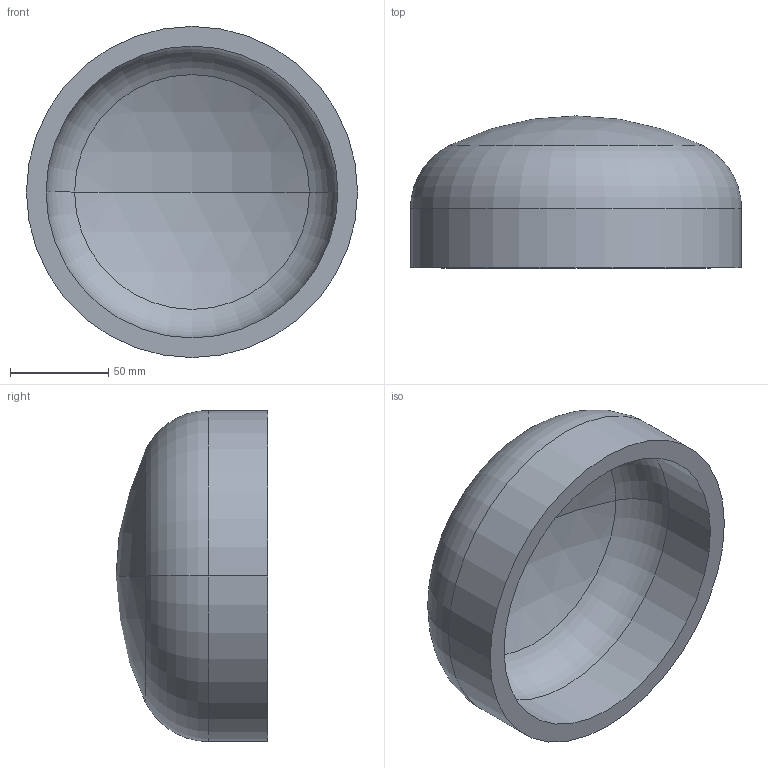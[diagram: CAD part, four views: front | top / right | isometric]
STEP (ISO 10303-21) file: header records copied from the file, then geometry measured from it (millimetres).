
FILE_DESCRIPTION (( 'STEP AP203' ), '1' );
FILE_NAME ('DIN 28013 Korbbogenform_-_Boden DIN 28013 - 168,3 x 30 - I - s=10.step', '2016-07-01T07:41:33', ( '' ), ( '' ), 'SwSTEP 2.0', 'SolidWorks 2013', '' );
FILE_SCHEMA (( 'CONFIG_CONTROL_DESIGN' ));
Length unit declared in the file: millimetre
Products named in the file (1): DIN 28013 Korbbogenform_-_Boden DIN 28013 - 168,3 x 30 - I - s=10
Bounding box: 168.3 x 77.21 x 168.3 mm (x, y, z)
Volume: 434966.8 mm3; surface area: 92175.9 mm2
Topology: 1 solids, 1 shells, 13 faces, 24 edges, 14 vertices
Faces by surface type: torus 4, cylinder 4, sphere 4, plane 1
Entity records: 407 total; most frequent: DIRECTION 72, CARTESIAN_POINT 52, ORIENTED_EDGE 48, AXIS2_PLACEMENT_3D 34, EDGE_CURVE 24, CIRCLE 20, VERTEX_POINT 14, EDGE_LOOP 14
